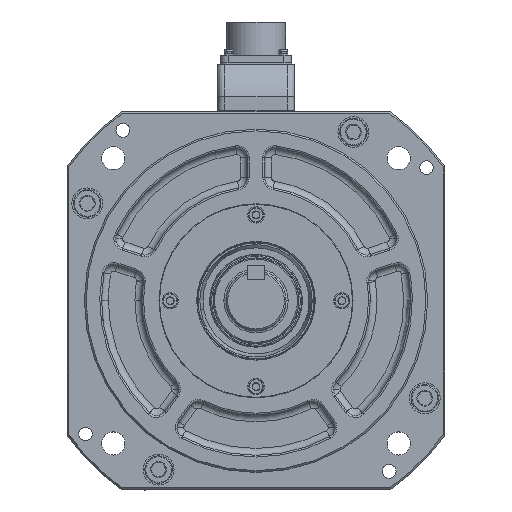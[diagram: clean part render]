
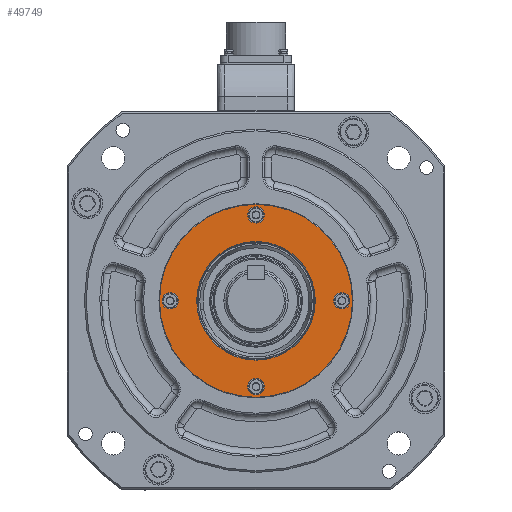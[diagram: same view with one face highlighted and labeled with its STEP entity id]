
A CAD part, top view. The second image highlights one B-rep face of the part: STEP entity #49749.
In plain terms, the highlighted planar face has unit normal (0, 0, 1).
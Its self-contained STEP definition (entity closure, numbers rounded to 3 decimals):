
#17853 = VERTEX_POINT ( 'NONE', #24717 ) ;
#17855 = VERTEX_POINT ( 'NONE', #24726 ) ;
#17879 = VERTEX_POINT ( 'NONE', #24707 ) ;
#17889 = VERTEX_POINT ( 'NONE', #24715 ) ;
#17897 = VERTEX_POINT ( 'NONE', #24693 ) ;
#17918 = VERTEX_POINT ( 'NONE', #24710 ) ;
#17923 = VERTEX_POINT ( 'NONE', #24748 ) ;
#17954 = VERTEX_POINT ( 'NONE', #24809 ) ;
#17957 = VERTEX_POINT ( 'NONE', #24817 ) ;
#17964 = VERTEX_POINT ( 'NONE', #24775 ) ;
#17993 = VERTEX_POINT ( 'NONE', #24812 ) ;
#18043 = VERTEX_POINT ( 'NONE', #24824 ) ;
#24693 = CARTESIAN_POINT ( 'NONE',  ( -4.75, -50., 24. ) ) ;
#24707 = CARTESIAN_POINT ( 'NONE',  ( 56.2, 0., 24. ) ) ;
#24710 = CARTESIAN_POINT ( 'NONE',  ( 54.75, 0., 24. ) ) ;
#24715 = CARTESIAN_POINT ( 'NONE',  ( 4.75, -50., 24. ) ) ;
#24717 = CARTESIAN_POINT ( 'NONE',  ( 34.546, 0., 24. ) ) ;
#24726 = CARTESIAN_POINT ( 'NONE',  ( 45.25, 0., 24. ) ) ;
#24748 = CARTESIAN_POINT ( 'NONE',  ( -54.75, 0., 24. ) ) ;
#24775 = CARTESIAN_POINT ( 'NONE',  ( -56.2, 0., 24. ) ) ;
#24809 = CARTESIAN_POINT ( 'NONE',  ( -34.546, 0., 24. ) ) ;
#24812 = CARTESIAN_POINT ( 'NONE',  ( -45.25, 0., 24. ) ) ;
#24817 = CARTESIAN_POINT ( 'NONE',  ( -4.75, 50., 24. ) ) ;
#24824 = CARTESIAN_POINT ( 'NONE',  ( 4.75, 50., 24. ) ) ;
#26136 = ORIENTED_EDGE ( 'NONE', *, *, #104341, .F. ) ;
#26142 = ORIENTED_EDGE ( 'NONE', *, *, #104329, .F. ) ;
#26165 = ORIENTED_EDGE ( 'NONE', *, *, #104380, .F. ) ;
#26182 = ORIENTED_EDGE ( 'NONE', *, *, #104428, .T. ) ;
#26192 = ORIENTED_EDGE ( 'NONE', *, *, #104271, .F. ) ;
#26198 = ORIENTED_EDGE ( 'NONE', *, *, #104261, .F. ) ;
#26215 = ORIENTED_EDGE ( 'NONE', *, *, #104246, .F. ) ;
#26238 = ORIENTED_EDGE ( 'NONE', *, *, #82692, .T. ) ;
#26253 = ORIENTED_EDGE ( 'NONE', *, *, #104407, .F. ) ;
#26259 = ORIENTED_EDGE ( 'NONE', *, *, #104275, .F. ) ;
#26270 = ORIENTED_EDGE ( 'NONE', *, *, #104405, .F. ) ;
#26400 = ORIENTED_EDGE ( 'NONE', *, *, #104348, .F. ) ;
#26984 = EDGE_LOOP ( 'NONE', ( #26238, #26182 ) ) ;
#27016 = EDGE_LOOP ( 'NONE', ( #26136, #26192 ) ) ;
#27078 = EDGE_LOOP ( 'NONE', ( #26400, #26198 ) ) ;
#27080 = EDGE_LOOP ( 'NONE', ( #26165, #26215 ) ) ;
#27086 = EDGE_LOOP ( 'NONE', ( #26253, #26259 ) ) ;
#27210 = EDGE_LOOP ( 'NONE', ( #26270, #26142 ) ) ;
#41177 = AXIS2_PLACEMENT_3D ( 'NONE', #54523, #54502, #54513 ) ;
#41191 = CIRCLE ( 'NONE', #41262, 4.75 ) ;
#41246 = AXIS2_PLACEMENT_3D ( 'NONE', #54590, #54604, #54593 ) ;
#41259 = AXIS2_PLACEMENT_3D ( 'NONE', #54537, #54554, #54536 ) ;
#41262 = AXIS2_PLACEMENT_3D ( 'NONE', #54601, #54602, #54586 ) ;
#41268 = CIRCLE ( 'NONE', #41246, 4.75 ) ;
#41275 = CIRCLE ( 'NONE', #41259, 4.75 ) ;
#41294 = CIRCLE ( 'NONE', #41177, 4.75 ) ;
#41333 = AXIS2_PLACEMENT_3D ( 'NONE', #54734, #54721, #54722 ) ;
#41359 = CIRCLE ( 'NONE', #41333, 4.75 ) ;
#41402 = CIRCLE ( 'NONE', #41412, 4.75 ) ;
#41412 = AXIS2_PLACEMENT_3D ( 'NONE', #54746, #54709, #54710 ) ;
#41415 = CIRCLE ( 'NONE', #41421, 34.546 ) ;
#41421 = AXIS2_PLACEMENT_3D ( 'NONE', #54636, #54640, #54620 ) ;
#41454 = AXIS2_PLACEMENT_3D ( 'NONE', #54933, #54936, #54903 ) ;
#41460 = CIRCLE ( 'NONE', #41454, 56.2 ) ;
#41467 = AXIS2_PLACEMENT_3D ( 'NONE', #54800, #54817, #54792 ) ;
#41469 = AXIS2_PLACEMENT_3D ( 'NONE', #54840, #54834, #54833 ) ;
#41511 = AXIS2_PLACEMENT_3D ( 'NONE', #54854, #54874, #54878 ) ;
#41528 = CIRCLE ( 'NONE', #41467, 4.75 ) ;
#41535 = CIRCLE ( 'NONE', #41511, 4.75 ) ;
#41552 = CIRCLE ( 'NONE', #41469, 34.546 ) ;
#49749 = ADVANCED_FACE ( 'NONE', ( #73071, #72956, #73097, #73096, #73052, #73057 ), #73074, .F. ) ;
#54502 = DIRECTION ( 'NONE',  ( 0., 0., 1. ) ) ;
#54513 = DIRECTION ( 'NONE',  ( 1., 0., 0. ) ) ;
#54523 = CARTESIAN_POINT ( 'NONE',  ( 50., 0., 24. ) ) ;
#54536 = DIRECTION ( 'NONE',  ( 1., 0., 0. ) ) ;
#54537 = CARTESIAN_POINT ( 'NONE',  ( 0., -50., 24. ) ) ;
#54554 = DIRECTION ( 'NONE',  ( 0., 0., 1. ) ) ;
#54586 = DIRECTION ( 'NONE',  ( 1., 0., 0. ) ) ;
#54590 = CARTESIAN_POINT ( 'NONE',  ( -50., 0., 24. ) ) ;
#54593 = DIRECTION ( 'NONE',  ( 1., 0., 0. ) ) ;
#54601 = CARTESIAN_POINT ( 'NONE',  ( 0., 50., 24. ) ) ;
#54602 = DIRECTION ( 'NONE',  ( 0., 0., 1. ) ) ;
#54604 = DIRECTION ( 'NONE',  ( 0., 0., 1. ) ) ;
#54620 = DIRECTION ( 'NONE',  ( 1., 0., 0. ) ) ;
#54636 = CARTESIAN_POINT ( 'NONE',  ( 0., 0., 24. ) ) ;
#54640 = DIRECTION ( 'NONE',  ( 0., 0., 1. ) ) ;
#54709 = DIRECTION ( 'NONE',  ( 0., 0., 1. ) ) ;
#54710 = DIRECTION ( 'NONE',  ( 1., 0., 0. ) ) ;
#54721 = DIRECTION ( 'NONE',  ( 0., 0., 1. ) ) ;
#54722 = DIRECTION ( 'NONE',  ( 1., 0., 0. ) ) ;
#54734 = CARTESIAN_POINT ( 'NONE',  ( 0., -50., 24. ) ) ;
#54746 = CARTESIAN_POINT ( 'NONE',  ( -50., 0., 24. ) ) ;
#54792 = DIRECTION ( 'NONE',  ( 1., 0., 0. ) ) ;
#54800 = CARTESIAN_POINT ( 'NONE',  ( 50., 0., 24. ) ) ;
#54817 = DIRECTION ( 'NONE',  ( 0., 0., 1. ) ) ;
#54833 = DIRECTION ( 'NONE',  ( 1., 0., 0. ) ) ;
#54834 = DIRECTION ( 'NONE',  ( 0., 0., 1. ) ) ;
#54840 = CARTESIAN_POINT ( 'NONE',  ( 0., 0., 24. ) ) ;
#54854 = CARTESIAN_POINT ( 'NONE',  ( 0., 50., 24. ) ) ;
#54874 = DIRECTION ( 'NONE',  ( 0., 0., 1. ) ) ;
#54878 = DIRECTION ( 'NONE',  ( 1., 0., 0. ) ) ;
#54903 = DIRECTION ( 'NONE',  ( 1., 0., 0. ) ) ;
#54933 = CARTESIAN_POINT ( 'NONE',  ( 0., 0., 24. ) ) ;
#54936 = DIRECTION ( 'NONE',  ( 0., 0., 1. ) ) ;
#59540 = CIRCLE ( 'NONE', #59571, 56.2 ) ;
#59571 = AXIS2_PLACEMENT_3D ( 'NONE', #60991, #60938, #60926 ) ;
#60926 = DIRECTION ( 'NONE',  ( 1., 0., 0. ) ) ;
#60938 = DIRECTION ( 'NONE',  ( 0., 0., 1. ) ) ;
#60991 = CARTESIAN_POINT ( 'NONE',  ( 0., 0., 24. ) ) ;
#72019 = AXIS2_PLACEMENT_3D ( 'NONE', #73104, #73035, #73050 ) ;
#72956 = FACE_BOUND ( 'NONE', #27080, .T. ) ;
#73035 = DIRECTION ( 'NONE',  ( 0., 0., -1. ) ) ;
#73050 = DIRECTION ( 'NONE',  ( -1., 0., 0. ) ) ;
#73052 = FACE_BOUND ( 'NONE', #27210, .T. ) ;
#73057 = FACE_OUTER_BOUND ( 'NONE', #26984, .T. ) ;
#73071 = FACE_BOUND ( 'NONE', #27078, .T. ) ;
#73074 = PLANE ( 'NONE',  #72019 ) ;
#73096 = FACE_BOUND ( 'NONE', #27086, .T. ) ;
#73097 = FACE_BOUND ( 'NONE', #27016, .T. ) ;
#73104 = CARTESIAN_POINT ( 'NONE',  ( 0., 34.546, 24. ) ) ;
#82692 = EDGE_CURVE ( 'NONE', #17964, #17879, #59540, .T. ) ;
#104246 = EDGE_CURVE ( 'NONE', #17855, #17918, #41294, .T. ) ;
#104261 = EDGE_CURVE ( 'NONE', #17897, #17889, #41275, .T. ) ;
#104271 = EDGE_CURVE ( 'NONE', #17923, #17993, #41268, .T. ) ;
#104275 = EDGE_CURVE ( 'NONE', #17957, #18043, #41191, .T. ) ;
#104329 = EDGE_CURVE ( 'NONE', #17954, #17853, #41415, .T. ) ;
#104341 = EDGE_CURVE ( 'NONE', #17993, #17923, #41402, .T. ) ;
#104348 = EDGE_CURVE ( 'NONE', #17889, #17897, #41359, .T. ) ;
#104380 = EDGE_CURVE ( 'NONE', #17918, #17855, #41528, .T. ) ;
#104405 = EDGE_CURVE ( 'NONE', #17853, #17954, #41552, .T. ) ;
#104407 = EDGE_CURVE ( 'NONE', #18043, #17957, #41535, .T. ) ;
#104428 = EDGE_CURVE ( 'NONE', #17879, #17964, #41460, .T. ) ;
